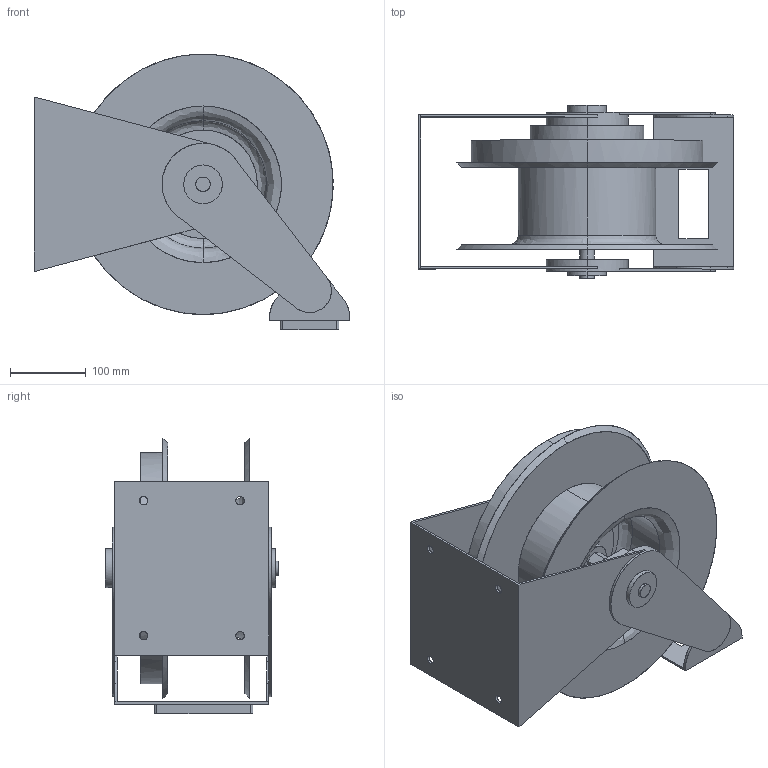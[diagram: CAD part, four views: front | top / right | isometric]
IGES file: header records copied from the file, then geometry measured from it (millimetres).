
Start section: Comment
Global section: file name: DP5000 OXP WIDE.igs; native system:  By UGS Corp.; preprocessor: XPlus GENERIC/IGES 3.0; author: Author; organization: Title; date: 20120803.141657; units: millimetre
Bounding box: 415.44 x 228.6 x 363.25 mm (x, y, z)
Surface area: 841599.5 mm2 (no closed solid volume)
Topology: 0 solids, 0 shells, 148 faces, 722 edges, 722 vertices
Faces by surface type: bspline 148
